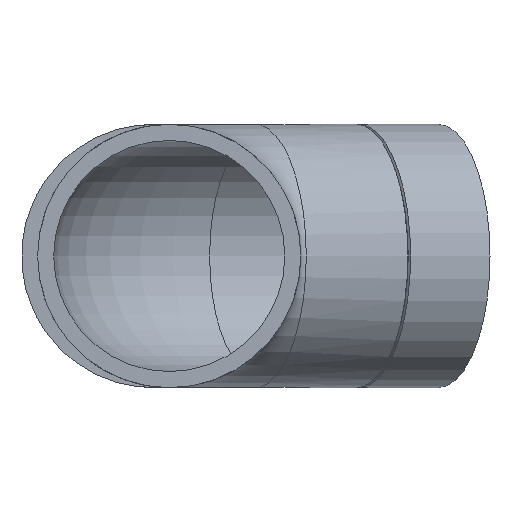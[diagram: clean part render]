
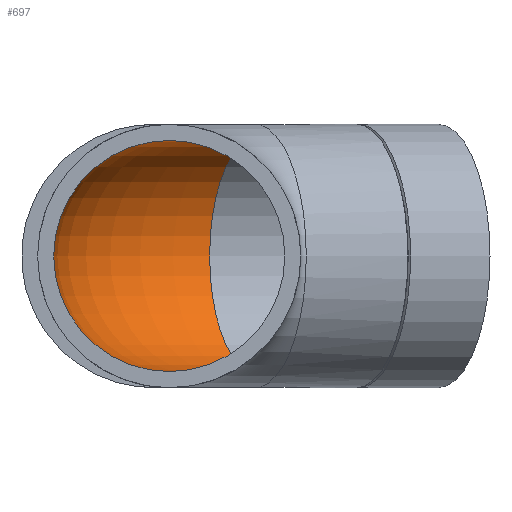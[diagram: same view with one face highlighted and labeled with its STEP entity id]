
A CAD part, front view. The second image highlights one B-rep face of the part: STEP entity #697.
In plain terms, the highlighted toroidal (fillet/blend) face has major radius 48 mm and minor radius 39.5 mm.
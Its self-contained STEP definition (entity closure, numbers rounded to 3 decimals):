
#13=TOROIDAL_SURFACE($,#769,48.,39.5);
#128=FACE_BOUND($,#224,.T.);
#170=FACE_OUTER_BOUND($,#223,.T.);
#223=EDGE_LOOP($,(#606));
#224=EDGE_LOOP($,(#607));
#263=CIRCLE($,#770,39.5);
#264=CIRCLE($,#771,39.5);
#334=VERTEX_POINT($,#1817);
#335=VERTEX_POINT($,#1819);
#427=EDGE_CURVE($,#334,#334,#263,.T.);
#428=EDGE_CURVE($,#335,#335,#264,.T.);
#606=ORIENTED_EDGE($,*,*,#427,.F.);
#607=ORIENTED_EDGE($,*,*,#428,.T.);
#697=ADVANCED_FACE($,(#170,#128),#13,.F.);
#769=AXIS2_PLACEMENT_3D($,#1816,#912,#913);
#770=AXIS2_PLACEMENT_3D($,#1818,#914,#915);
#771=AXIS2_PLACEMENT_3D($,#1820,#916,#917);
#912=DIRECTION('center_axis',(0.,0.,-1.));
#913=DIRECTION('ref_axis',(-1.,0.,0.));
#914=DIRECTION('center_axis',(-0.921,-0.391,0.));
#915=DIRECTION('ref_axis',(0.391,-0.921,0.));
#916=DIRECTION('center_axis',(0.,-1.,0.));
#917=DIRECTION('ref_axis',(1.,0.,0.));
#1816=CARTESIAN_POINT('Origin',(48.,38.229,0.));
#1817=CARTESIAN_POINT('',(13.811,118.774,0.));
#1818=CARTESIAN_POINT('Origin',(29.245,82.414,0.));
#1819=CARTESIAN_POINT('',(-39.5,38.229,0.));
#1820=CARTESIAN_POINT('Origin',(0.,38.229,0.));
